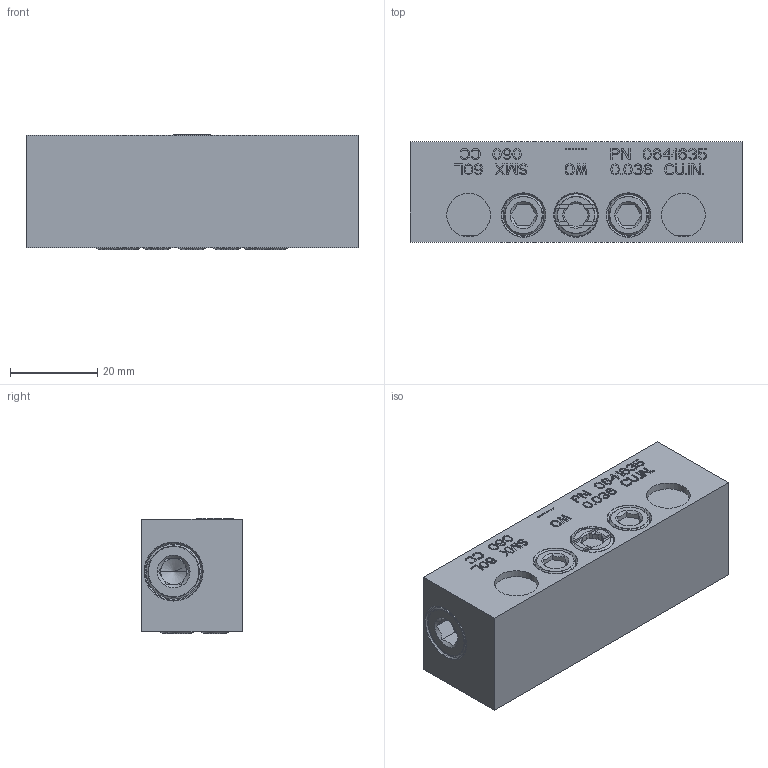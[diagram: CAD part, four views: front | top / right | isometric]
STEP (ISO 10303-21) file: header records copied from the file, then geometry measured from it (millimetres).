
FILE_DESCRIPTION((''),'2;1');
FILE_NAME('0641635_SMX_60L','2023-07-21T11:14:11',('pietro.masciave'),(''),'CREO PARAMETRIC BY PTC INC, 2022281','CREO PARAMETRIC BY PTC INC, 2022281','');
FILE_SCHEMA(('CONFIG_CONTROL_DESIGN'));
Length unit declared in the file: millimetre
Products named in the file (1): 0641635_SMX_60L
Bounding box: 76 x 23 x 26.33 mm (x, y, z)
Volume: 43966.8 mm3; surface area: 12630.9 mm2
Topology: 1 solids, 14 shells, 1460 faces, 4064 edges, 2701 vertices
Faces by surface type: plane 1286, cylinder 108, cone 44, torus 22
Entity records: 47080 total; most frequent: CARTESIAN_POINT 9353, ORIENTED_EDGE 8080, DIRECTION 7273, EDGE_CURVE 4060, VECTOR 3631, LINE 3631, VERTEX_POINT 2701, AXIS2_PLACEMENT_3D 1821
